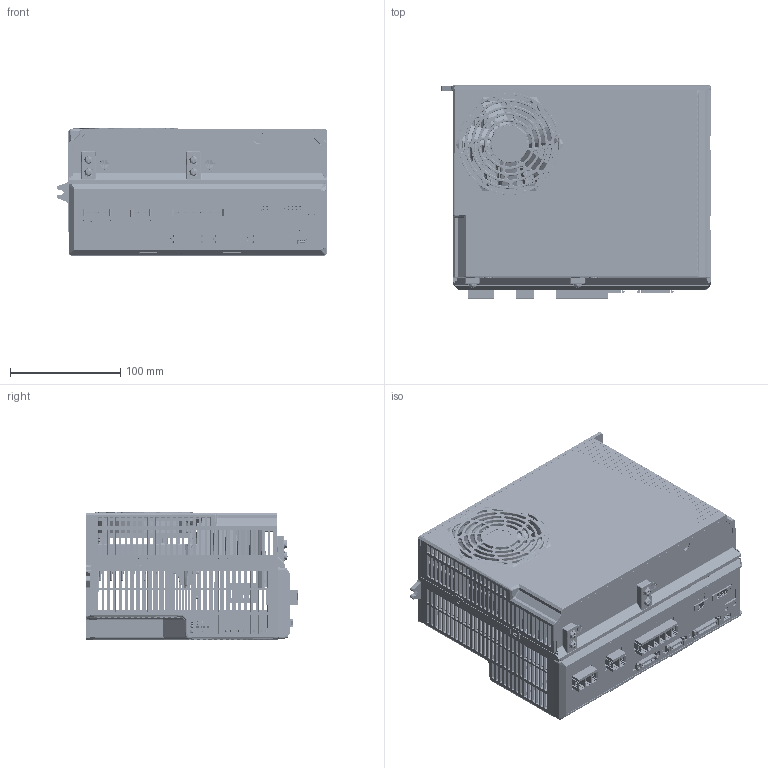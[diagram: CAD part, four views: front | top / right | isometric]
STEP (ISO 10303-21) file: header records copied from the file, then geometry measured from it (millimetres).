
FILE_DESCRIPTION (( 'STEP AP214' ), '1' );
FILE_NAME ('CDHD2S-012A-ASSEMBLY.STEP', '2024-02-01T09:13:59', ( '' ), ( '' ), 'SwSTEP 2.0', 'SolidWorks 2016', '' );
FILE_SCHEMA (( 'AUTOMOTIVE_DESIGN' ));
Length unit declared in the file: millimetre
Products named in the file (11): 15EDGRM-3.5-04P-14-00A(H); MECr009012H1-05; spcr0000liujiaom3-35; 11203803003996, 散热器 RoHS CDHV-12A HSKr009012H1-14; MECr009012H2-05; 15EDGRM-3.5-02P-14-00A(H); PCB-C; ヶ醱啣 CDHD 24A & CDHV 12A (STO) Front Panel CDHD2S蜊唳; 400 480 VAC CDHD2S-012; pcb_power_CDHV12A; CDHD2S-012A-ASSEMBLY
Assembly tree (10 placements, depth 2):
  CDHD2S-012A-ASSEMBLY
    11203803003996, 散热器 RoHS CDHV-12A HSKr009012H1-14
    MECr009012H2-05
    MECr009012H1-05
    ヶ醱啣 CDHD 24A & CDHV 12A (STO) Front Panel CDHD2S蜊唳
    pcb_power_CDHV12A
    400 480 VAC CDHD2S-012
    15EDGRM-3.5-04P-14-00A(H)
    15EDGRM-3.5-02P-14-00A(H)
    spcr0000liujiaom3-35
    PCB-C
Bounding box: 245.36 x 193.5 x 116.48 mm (x, y, z)
Topology: 106 solids, 125 shells, 20939 faces, 56123 edges, 35598 vertices
Faces by surface type: plane 11974, cylinder 4384, bspline 2857, cone 1261, torus 235, sphere 228
Full cylindrical faces by diameter (mm): 0.3 x1
Entity records: 887835 total; most frequent: CARTESIAN_POINT 282674, ORIENTED_EDGE 111770, DIRECTION 87705, EDGE_CURVE 55889, VERTEX_POINT 35547, LINE 35303, VECTOR 35303, AXIS2_PLACEMENT_3D 26201
